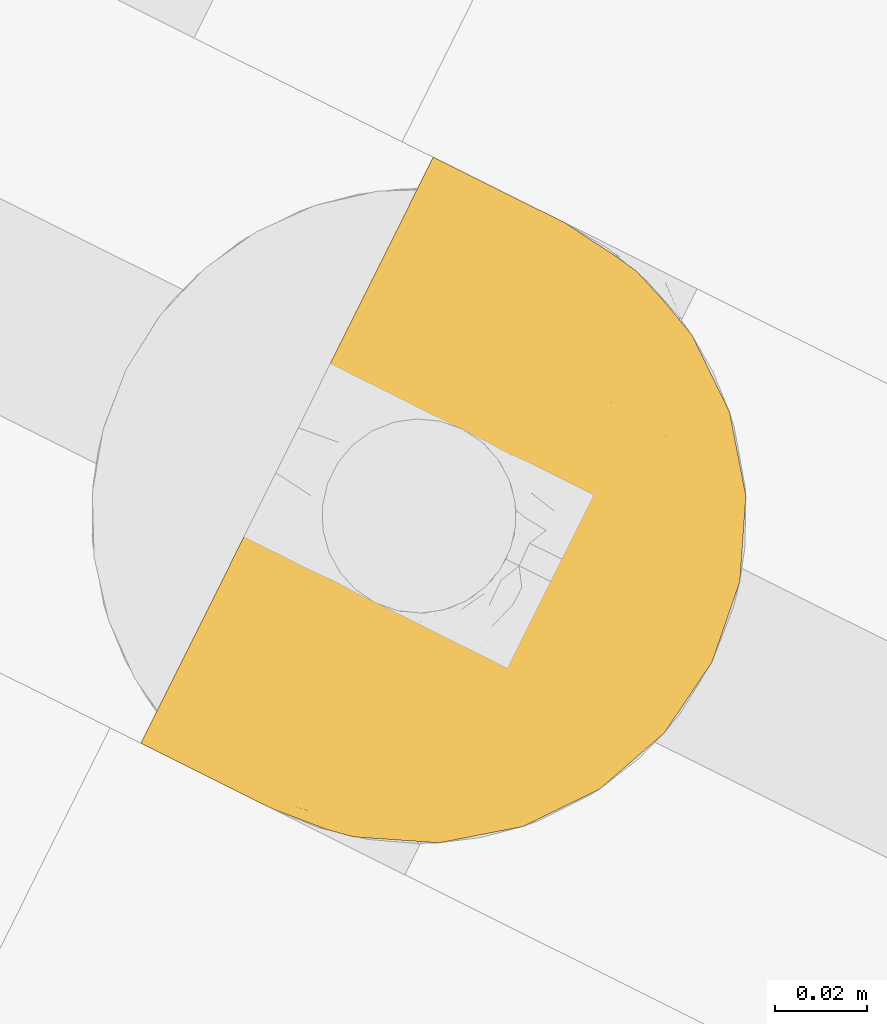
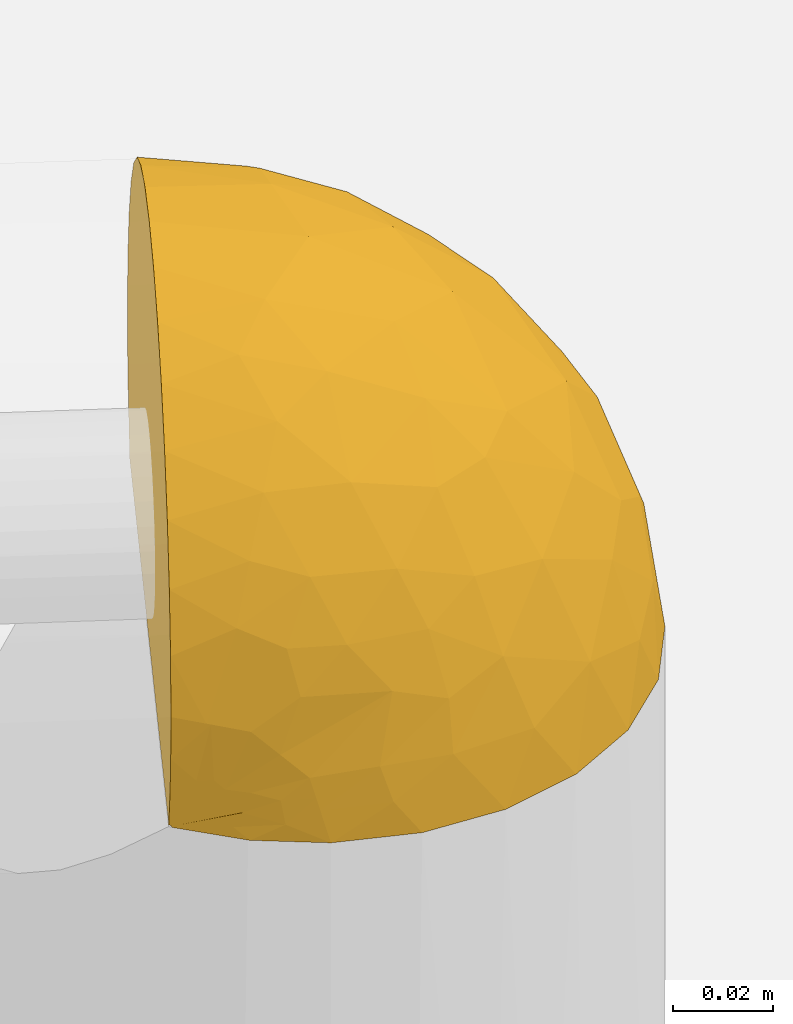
# One storey, part 54 of 91: 1 covering.
"""IFC2X3 building model written with IfcOpenShell, lengths in metres."""

from ifc_helpers import new_model, entity, si_unit, converted_unit, derived_unit, direction, frame, origin, place, context, subcontext, project, spatial, faceted_brep, element, save


model = new_model("IFC2X3")

# Units and contexts
model_context = context("Model", 3, precision=1e-05, world=origin(), true_north=direction((0.894925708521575, 0.446215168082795)))
context_of_model = context(None, 3, precision=1e-05, world=origin(), true_north=direction((0.894925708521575, 0.446215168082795)))
body_context = subcontext(model_context, "Body", "Model", "MODEL_VIEW")
ifc_project = project(units=[si_unit("LENGTHUNIT", "METRE"), si_unit("AREAUNIT", "SQUARE_METRE"), si_unit("VOLUMEUNIT", "CUBIC_METRE"), converted_unit("PLANEANGLEUNIT", "DEGREE", entity("IfcRatioMeasure", 0.0174532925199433), si_unit("PLANEANGLEUNIT", "RADIAN"), dimensions=[0, 0, 0, 0, 0, 0, 0]), si_unit("MASSUNIT", "GRAM", prefix="KILO"), si_unit("TIMEUNIT", "SECOND"), si_unit("FREQUENCYUNIT", "HERTZ"), si_unit("THERMODYNAMICTEMPERATUREUNIT", "DEGREE_CELSIUS"), derived_unit("THERMALTRANSMITTANCEUNIT", [(si_unit("MASSUNIT", "GRAM", prefix="KILO"), 1), (si_unit("THERMODYNAMICTEMPERATUREUNIT", "KELVIN"), -1), (si_unit("TIMEUNIT", "SECOND"), -3)]), derived_unit("VOLUMETRICFLOWRATEUNIT", [(si_unit("LENGTHUNIT", "METRE"), 3), (si_unit("TIMEUNIT", "SECOND"), -1)]), si_unit("ELECTRICCURRENTUNIT", "AMPERE"), si_unit("ELECTRICVOLTAGEUNIT", "VOLT"), si_unit("POWERUNIT", "WATT"), si_unit("FORCEUNIT", "NEWTON", prefix="KILO"), si_unit("ILLUMINANCEUNIT", "LUX"), si_unit("LUMINOUSFLUXUNIT", "LUMEN"), si_unit("LUMINOUSINTENSITYUNIT", "CANDELA"), si_unit("PRESSUREUNIT", "PASCAL")], contexts=[model_context, context_of_model])

# Site, building, storey
site_placement = place(None, frame((218.228324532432, 584.720189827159, 0.0), z_axis=(0.0, 0.0, 1.0), x_axis=(0.446215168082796, 0.894925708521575, 0.0)))
site = spatial("IfcSite", under=ifc_project, at=site_placement, Name="Default", CompositionType="ELEMENT")
building_placement = place(site_placement, origin())
building = spatial("IfcBuilding", under=site, at=building_placement, CompositionType="ELEMENT")
storey_placement = place(building_placement, origin())
storey = spatial("IfcBuildingStorey", under=building, at=storey_placement, Name="0 - Piano Terra", CompositionType="ELEMENT", Elevation=0.0)

# Covering
covering_placement = place(storey_placement, frame((-4.59456725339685, -4.63157192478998, 3.4664144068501)))
element("IfcCovering", 1, at=covering_placement, inside=storey, Name="Isolamento tubazione:Default", ObjectType="Isolamento tubazione:Default", PredefinedType="INSULATION", context=body_context, shape_type="Brep", body=[
    faceted_brep([(0.00701017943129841, 0.104695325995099, 0.0608106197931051), (0.013582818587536, 0.104695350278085, 0.0731037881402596), (0.0224271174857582, 0.104695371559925, 0.0838776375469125), (0.0332029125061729, 0.10469538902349, 0.0927184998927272), (0.0454960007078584, 0.104695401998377, 0.0992869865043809), (0.0588340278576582, 0.104695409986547, 0.103330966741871), (0.072695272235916, 0.104695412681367, 0.104695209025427), (0.0865703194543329, 0.104695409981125, 0.103328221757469), (0.0999106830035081, 0.104695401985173, 0.0992803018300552), (0.112203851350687, 0.104695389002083, 0.0927076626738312), (0.12297770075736, 0.10469537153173, 0.0838633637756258), (0.131818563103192, 0.104695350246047, 0.0730875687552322), (0.138387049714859, 0.104695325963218, 0.0607944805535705), (0.142431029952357, 0.104695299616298, 0.0474564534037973), (0.143795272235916, 0.104695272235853, 0.0335952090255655), (0.14297149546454, 0.104695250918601, 0.0228034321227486), (0.140522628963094, 0.10469523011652, 0.0122724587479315), (0.136503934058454, 0.10469521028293, 0.00223178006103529), (0.13302176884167, 0.104695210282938, 0.00223178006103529), (0.127516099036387, 0.104695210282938, 0.00223178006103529), (0.123022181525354, 0.104695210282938, 0.00223178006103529), (0.11852826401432, 0.104695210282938, 0.00223178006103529), (0.114034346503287, 0.104695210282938, 0.00223178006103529), (0.109540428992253, 0.104695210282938, 0.00223178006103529), (0.10504651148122, 0.104695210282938, 0.00223178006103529), (0.100552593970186, 0.104695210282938, 0.00223178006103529), (0.0960586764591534, 0.104695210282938, 0.00223178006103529), (0.0915647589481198, 0.104695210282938, 0.00223178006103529), (0.0870708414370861, 0.104695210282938, 0.00223178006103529), (0.0825769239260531, 0.104695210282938, 0.00223178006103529), (0.07808300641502, 0.104695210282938, 0.00223178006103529), (0.0735890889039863, 0.104695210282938, 0.00223178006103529), (0.0690951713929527, 0.104695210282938, 0.00223178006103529), (0.0646012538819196, 0.104695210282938, 0.00223178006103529), (0.0611190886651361, 0.104695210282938, 0.00223178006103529), (0.0576369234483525, 0.104695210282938, 0.00223178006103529), (0.0541547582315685, 0.104695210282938, 0.00223178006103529), (0.0506725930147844, 0.104695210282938, 0.00223178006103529), (0.0471904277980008, 0.104695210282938, 0.00223178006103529), (0.0437082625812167, 0.104695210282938, 0.00223178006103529), (0.0402260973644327, 0.104695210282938, 0.00223178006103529), (0.0367439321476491, 0.104695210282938, 0.00223178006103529), (0.033261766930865, 0.104695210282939, 0.00223178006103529), (0.029779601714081, 0.104695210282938, 0.00223178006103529), (0.0262974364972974, 0.104695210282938, 0.00223178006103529), (0.0228152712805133, 0.104695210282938, 0.00223178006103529), (0.0193331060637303, 0.104695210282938, 0.00223178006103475), (0.0158509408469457, 0.104695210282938, 0.00223178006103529), (0.0123687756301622, 0.104695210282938, 0.00223178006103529), (0.00888661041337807, 0.10469521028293, 0.00223178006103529), (0.00486547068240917, 0.104695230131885, 0.0122802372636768), (0.00241781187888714, 0.104695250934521, 0.0228114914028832), (0.0015952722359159, 0.104695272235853, 0.033595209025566), (0.00296225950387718, 0.104695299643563, 0.0474702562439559), (0.136503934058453, 0.104058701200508, 0.00159527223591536), (0.141948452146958, 0.0887951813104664, 0.00159527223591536), (0.143795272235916, 0.072695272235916, 0.00159527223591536), (0.141372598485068, 0.0542932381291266, 0.00159527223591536), (0.134269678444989, 0.0371452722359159, 0.00159527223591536), (0.122970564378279, 0.0224199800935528, 0.00159527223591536), (0.108245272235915, 0.0111208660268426, 0.00159527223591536), (0.0910973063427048, 0.00401794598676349, 0.00159527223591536), (0.072695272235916, 0.00159527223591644, 0.00159527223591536), (0.0542932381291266, 0.00401794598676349, 0.00159527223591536), (0.0371452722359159, 0.0111208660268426, 0.00159527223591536), (0.0224199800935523, 0.0224199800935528, 0.00159527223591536), (0.0111208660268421, 0.0371452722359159, 0.00159527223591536), (0.00401794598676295, 0.0542932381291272, 0.00159527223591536), (0.0015952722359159, 0.072695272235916, 0.00159527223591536), (0.00344209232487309, 0.0887951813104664, 0.00159527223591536), (0.00888661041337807, 0.104058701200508, 0.00159527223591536), (0.0123687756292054, 0.104058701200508, 0.00159527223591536), (0.0168626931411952, 0.104058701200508, 0.0015952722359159), (0.0208507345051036, 0.104058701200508, 0.00159527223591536), (0.0248387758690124, 0.104058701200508, 0.00159527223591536), (0.0288268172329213, 0.104058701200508, 0.00159527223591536), (0.0328148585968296, 0.104058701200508, 0.00159527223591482), (0.0368028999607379, 0.104058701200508, 0.00159527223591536), (0.0407909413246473, 0.104058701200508, 0.00159527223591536), (0.0447789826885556, 0.104058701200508, 0.00159527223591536), (0.0487670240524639, 0.104058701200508, 0.00159527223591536), (0.0527550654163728, 0.104058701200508, 0.00159527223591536), (0.0567431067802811, 0.104058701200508, 0.00159527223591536), (0.06073114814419, 0.104058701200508, 0.00159527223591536), (0.0647191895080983, 0.104058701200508, 0.00159527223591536), (0.0687072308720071, 0.104058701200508, 0.00159527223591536), (0.072695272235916, 0.104058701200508, 0.00159527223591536), (0.0771891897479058, 0.104058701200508, 0.00159527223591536), (0.0816831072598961, 0.104058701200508, 0.00159527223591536), (0.0861770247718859, 0.104058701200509, 0.00159527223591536), (0.0906709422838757, 0.104058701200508, 0.00159527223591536), (0.0951648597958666, 0.104058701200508, 0.00159527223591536), (0.0996587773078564, 0.104058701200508, 0.00159527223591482), (0.104152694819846, 0.104058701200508, 0.00159527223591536), (0.108646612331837, 0.104058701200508, 0.00159527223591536), (0.112128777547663, 0.104058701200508, 0.00159527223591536), (0.115610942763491, 0.104058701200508, 0.00159527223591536), (0.119093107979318, 0.104058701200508, 0.0015952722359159), (0.122575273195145, 0.104058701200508, 0.00159527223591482), (0.126057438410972, 0.104058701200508, 0.00159527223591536), (0.129539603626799, 0.104058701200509, 0.00159527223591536), (0.133021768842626, 0.104058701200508, 0.00159527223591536), (0.027162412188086, 0.104255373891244, 0.00205536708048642), (0.0228447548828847, 0.104218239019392, 0.00201674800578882), (0.105639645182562, 0.104232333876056, 0.00203218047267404), (0.10190573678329, 0.104223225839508, 0.00202232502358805), (0.0867435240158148, 0.104244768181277, 0.00204498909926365), (0.0668482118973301, 0.104248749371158, 0.00204894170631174), (0.0708348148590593, 0.104242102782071, 0.00204230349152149), (0.131280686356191, 0.104245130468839, 0.00204535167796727), (0.127420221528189, 0.104214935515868, 0.00201297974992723), (0.00888661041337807, 0.104245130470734, 0.00204535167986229), (0.0141098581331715, 0.104245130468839, 0.00204535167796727), (0.136503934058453, 0.104245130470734, 0.00204535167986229), (0.0427849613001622, 0.104223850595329, 0.00202301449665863), (0.124067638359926, 0.104194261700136, 0.00198794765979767), (0.120775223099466, 0.104257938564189, 0.00205780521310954), (0.110387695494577, 0.104229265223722, 0.00202890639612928), (0.0524136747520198, 0.104265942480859, 0.00206524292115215), (0.0628628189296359, 0.104242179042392, 0.00204238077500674), (0.0831700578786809, 0.104232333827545, 0.00203218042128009), (0.0794361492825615, 0.10422322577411, 0.00202232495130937), (0.0747761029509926, 0.104225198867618, 0.00202449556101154), (0.0979269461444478, 0.104248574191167, 0.00204876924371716), (0.0939908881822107, 0.104265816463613, 0.00206512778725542), (0.113677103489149, 0.104187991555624, 0.00197981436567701), (0.0485334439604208, 0.104277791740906, 0.00207579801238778), (0.0308953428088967, 0.104213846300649, 0.00201172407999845), (0.0181058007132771, 0.104270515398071, 0.00206937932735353), (0.136503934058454, 0.104591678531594, 0.00218889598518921), (0.136503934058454, 0.10448814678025, 0.00214601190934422), (0.136503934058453, 0.104366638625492, 0.00209568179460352), (0.00888661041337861, 0.104366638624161, 0.00209568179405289), (0.00888661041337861, 0.104488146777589, 0.00214601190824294), (0.00888661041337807, 0.104591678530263, 0.00218889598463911), (0.00888661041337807, 0.104101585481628, 0.00169880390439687), (0.00888661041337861, 0.104144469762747, 0.00180233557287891), (0.00888661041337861, 0.104194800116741, 0.00192384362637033), (0.136503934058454, 0.104194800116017, 0.00192384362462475), (0.136503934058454, 0.104144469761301, 0.00180233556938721), (0.136503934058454, 0.104101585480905, 0.00169880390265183), (0.0346304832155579, 0.104253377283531, 0.00205345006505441), (0.0386956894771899, 0.104241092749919, 0.00204127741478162), (0.0587371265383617, 0.104226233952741, 0.00202562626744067), (0.116928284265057, 0.104250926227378, 0.00205107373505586), (0.0903177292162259, 0.104255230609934, 0.00205523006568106), (0.140124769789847, 0.0955895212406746, 0.00412512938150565), (0.143795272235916, 0.0756538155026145, 0.0126366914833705), (0.141948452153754, 0.0903263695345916, 0.0084031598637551), (0.143795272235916, 0.0769824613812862, 0.0175952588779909), (0.139668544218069, 0.0994468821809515, 0.00780383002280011), (0.140275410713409, 0.0969885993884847, 0.00781943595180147), (0.142769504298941, 0.0852156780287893, 0.0059764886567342), (0.142149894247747, 0.0937883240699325, 0.0143635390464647), (0.141947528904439, 0.099537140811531, 0.0166311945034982), (0.143354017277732, 0.0971703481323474, 0.0244808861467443), (0.143795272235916, 0.0886952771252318, 0.0293080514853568), (0.143120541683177, 0.0941883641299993, 0.0211832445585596), (0.143795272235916, 0.0975935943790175, 0.0316923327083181), (0.143795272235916, 0.096695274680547, 0.0314516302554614), (0.143795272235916, 0.0828388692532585, 0.0234516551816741), (0.141108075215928, 0.0983827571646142, 0.0125434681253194), (0.142774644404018, 0.0887697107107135, 0.0136875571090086), (0.139421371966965, 0.0980466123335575, 0.00495037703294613), (0.143795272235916, 0.0748388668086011, 0.00959526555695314), (0.143795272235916, 0.0741745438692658, 0.00711598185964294), (0.0893151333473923, 0.0549375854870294, 0.0896378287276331), (0.072695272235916, 0.0728357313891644, 0.0996491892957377), (0.072695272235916, 0.0440946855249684, 0.0850049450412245), (0.142219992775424, 0.059684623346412, 0.0147146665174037), (0.129102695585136, 0.0319775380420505, 0.0210799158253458), (0.129776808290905, 0.0415723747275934, 0.0409572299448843), (0.11597820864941, 0.0252478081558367, 0.0403763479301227), (0.138383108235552, 0.0499934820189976, 0.0242534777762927), (0.138383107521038, 0.0463859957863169, 0.0118767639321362), (0.106218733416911, 0.0631220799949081, 0.0866828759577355), (0.0958613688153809, 0.0345361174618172, 0.0717545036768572), (0.072695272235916, 0.00664135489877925, 0.0334549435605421), (0.0860602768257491, 0.00500701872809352, 0.0223828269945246), (0.087498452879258, 0.0142207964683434, 0.0476943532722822), (0.0933399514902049, 0.0790685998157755, 0.0982939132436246), (0.13540476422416, 0.0934074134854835, 0.0661225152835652), (0.140736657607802, 0.0929552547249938, 0.052898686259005), (0.141485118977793, 0.0815657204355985, 0.0458977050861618), (0.0999040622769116, 0.0109111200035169, 0.0289347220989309), (0.115978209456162, 0.0181968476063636, 0.0198680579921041), (0.127662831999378, 0.0548279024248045, 0.0603936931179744), (0.136403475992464, 0.068059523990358, 0.0535431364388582), (0.122566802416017, 0.0661640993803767, 0.074743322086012), (0.141414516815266, 0.0723760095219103, 0.0400661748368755), (0.135404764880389, 0.0808694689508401, 0.0626158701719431), (0.117808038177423, 0.0824200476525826, 0.0856486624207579), (0.128216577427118, 0.084113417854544, 0.075185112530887), (0.072695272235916, 0.0212856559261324, 0.06219596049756), (0.102581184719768, 0.0203118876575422, 0.0484394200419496), (0.106218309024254, 0.0805233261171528, 0.0931593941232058), (0.113404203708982, 0.0464186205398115, 0.0705628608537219), (0.11202914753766, 0.0324415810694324, 0.0572918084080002), (0.142049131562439, 0.0622245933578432, 0.023223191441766), (0.141372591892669, 0.0647086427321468, 0.0322780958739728), (0.134923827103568, 0.0555386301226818, 0.0462218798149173), (0.0015952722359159, 0.0975935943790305, 0.0316923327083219), (0.004658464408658, 0.0913711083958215, 0.0525258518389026), (0.0599076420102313, 0.00476036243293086, 0.0217173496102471), (0.052065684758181, 0.0827616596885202, 0.0992025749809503), (0.0454864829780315, 0.013804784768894, 0.0373979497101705), (0.0595021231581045, 0.0111562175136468, 0.0419309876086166), (0.050469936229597, 0.021099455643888, 0.0556262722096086), (0.0454864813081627, 0.00833085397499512, 0.0176206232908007), (0.0282563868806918, 0.0817735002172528, 0.0860408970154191), (0.0391881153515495, 0.0711303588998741, 0.0901575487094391), (0.0391881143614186, 0.0888744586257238, 0.0949739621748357), (0.0494312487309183, 0.0345600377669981, 0.0717305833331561), (0.00285641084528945, 0.0628139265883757, 0.0189430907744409), (0.0015952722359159, 0.0769824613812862, 0.0175952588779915), (0.0015952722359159, 0.0756538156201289, 0.0126366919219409), (0.0015952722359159, 0.0748388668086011, 0.00959526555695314), (0.00878913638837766, 0.0486500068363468, 0.0307270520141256), (0.00700743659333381, 0.0479164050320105, 0.0183833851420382), (0.0162878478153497, 0.0373802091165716, 0.035302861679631), (0.0294123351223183, 0.0191716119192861, 0.023991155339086), (0.0162878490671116, 0.0311242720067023, 0.0175586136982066), (0.0307050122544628, 0.0286599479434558, 0.0485711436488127), (0.00621922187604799, 0.0692037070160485, 0.046480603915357), (0.00429322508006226, 0.0813677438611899, 0.0473971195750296), (0.00255877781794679, 0.0787073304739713, 0.0366850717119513), (0.0275978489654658, 0.049865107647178, 0.0691008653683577), (0.02226167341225, 0.0674668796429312, 0.0747878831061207), (0.0147818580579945, 0.0586950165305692, 0.058595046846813), (0.0177403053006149, 0.0851785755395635, 0.0761973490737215), (0.00999426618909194, 0.0884456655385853, 0.0650713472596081), (0.00999449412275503, 0.0763683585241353, 0.060679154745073), (0.0554032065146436, 0.0566571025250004, 0.0904000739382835), (0.0413829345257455, 0.0513608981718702, 0.0812165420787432), (0.0015952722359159, 0.096695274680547, 0.0314516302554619), (0.0015952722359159, 0.0886952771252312, 0.0293080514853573), (0.0373836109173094, 0.0397018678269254, 0.069105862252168), (0.00287128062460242, 0.0601005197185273, 0.0101596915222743), (0.0202384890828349, 0.0428323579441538, 0.0523115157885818), (0.0116104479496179, 0.0525790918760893, 0.0458714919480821), (0.0056906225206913, 0.0601608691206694, 0.0351858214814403), (0.0015952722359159, 0.0828388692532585, 0.0234516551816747), (0.0015952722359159, 0.0741745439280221, 0.00711598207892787), (0.0021206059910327, 0.0817501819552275, 0.00604681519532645), (0.00583102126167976, 0.102600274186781, 0.0091356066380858), (0.00537214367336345, 0.100433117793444, 0.00967502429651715), (0.00344116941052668, 0.0995320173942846, 0.0166378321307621), (0.00200983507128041, 0.0827053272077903, 0.0120139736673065), (0.00520910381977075, 0.0972106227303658, 0.00764012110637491), (0.00572680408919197, 0.0994658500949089, 0.00780220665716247), (0.00344209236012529, 0.090326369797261, 0.00840315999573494), (0.00307857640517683, 0.0960116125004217, 0.0168494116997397), (0.00323987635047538, 0.0937833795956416, 0.0143639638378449), (0.00259902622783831, 0.0886882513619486, 0.0137438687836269), (0.00419789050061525, 0.0920715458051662, 0.00443450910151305)], [[[0, 1, 2, 3, 4, 5, 6, 7, 8, 9, 10, 11, 12, 13, 14, 15, 16, 17, 18, 19, 20, 21, 22, 23, 24, 25, 26, 27, 28, 29, 30, 31, 32, 33, 34, 35, 36, 37, 38, 39, 40, 41, 42, 43, 44, 45, 46, 47, 48, 49, 50, 51, 52, 53]], [[54, 55, 56, 57, 58, 59, 60, 61, 62, 63, 64, 65, 66, 67, 68, 69, 70, 71, 72, 73, 74, 75, 76, 77, 78, 79, 80, 81, 82, 83, 84, 85, 86, 87, 88, 89, 90, 91, 92, 93, 94, 95, 96, 97, 98, 99, 100, 101]], [[102, 74, 103]], [[24, 104, 105]], [[90, 89, 106]], [[107, 32, 108]], [[109, 100, 110]], [[33, 32, 107]], [[111, 48, 47, 112]], [[18, 113, 109, 19]], [[100, 109, 113, 101]], [[71, 111, 112, 72]], [[39, 38, 114, 40]], [[20, 115, 116]], [[117, 94, 104]], [[80, 118, 82, 81]], [[119, 33, 107]], [[29, 120, 121]], [[108, 122, 86]], [[110, 19, 109]], [[108, 32, 31]], [[107, 108, 85]], [[121, 30, 29]], [[25, 123, 26]], [[93, 92, 105]], [[124, 91, 90]], [[22, 125, 117]], [[126, 37, 118]], [[102, 43, 127]], [[112, 47, 128]], [[73, 128, 103]], [[18, 17, 129, 130, 131, 113]], [[48, 111, 132, 133, 134, 49]], [[71, 70, 135, 136, 137, 111]], [[101, 113, 138, 139, 140, 54]], [[72, 112, 128]], [[103, 74, 73]], [[25, 24, 105]], [[128, 46, 103]], [[73, 72, 128]], [[20, 116, 21]], [[110, 99, 115]], [[115, 20, 19]], [[76, 127, 141]], [[142, 114, 78]], [[95, 125, 96]], [[127, 76, 75]], [[102, 103, 44]], [[103, 46, 45, 44]], [[119, 143, 34]], [[85, 84, 107]], [[143, 118, 36]], [[84, 119, 107]], [[86, 85, 108]], [[87, 121, 88]], [[31, 122, 108]], [[122, 87, 86]], [[31, 30, 122]], [[121, 87, 122]], [[35, 34, 143, 36]], [[83, 143, 119]], [[82, 143, 83]], [[119, 84, 83]], [[143, 82, 118]], [[36, 118, 37]], [[126, 114, 38]], [[42, 41, 141]], [[80, 126, 118]], [[79, 114, 126]], [[78, 114, 79]], [[126, 80, 79]], [[142, 40, 114]], [[41, 142, 141]], [[142, 77, 141]], [[43, 42, 127]], [[75, 74, 102]], [[76, 141, 77]], [[142, 78, 77]], [[127, 42, 141]], [[102, 127, 75]], [[116, 97, 144]], [[144, 21, 116]], [[98, 116, 115]], [[95, 94, 117]], [[23, 22, 117]], [[22, 21, 144]], [[96, 125, 144]], [[125, 95, 117]], [[24, 23, 104]], [[38, 37, 126]], [[110, 100, 99]], [[104, 93, 105]], [[124, 123, 91]], [[92, 123, 105]], [[105, 123, 25]], [[92, 91, 123]], [[124, 26, 123]], [[124, 27, 26]], [[145, 27, 124]], [[93, 104, 94]], [[117, 104, 23]], [[120, 88, 121]], [[30, 121, 122]], [[106, 145, 90]], [[89, 88, 120]], [[145, 124, 90]], [[120, 29, 28]], [[145, 28, 27]], [[106, 28, 145]], [[34, 33, 119]], [[128, 47, 46]], [[144, 125, 22]], [[96, 144, 97]], [[116, 98, 97]], [[142, 41, 40]], [[98, 115, 99]], [[19, 110, 115]], [[44, 43, 102]], [[106, 120, 28]], [[120, 106, 89]], [[54, 140, 139, 146]], [[147, 148, 149]], [[113, 150, 151]], [[55, 152, 56]], [[151, 138, 113]], [[129, 17, 16]], [[151, 150, 153]], [[130, 129, 154]], [[154, 129, 16]], [[155, 156, 157]], [[15, 14, 158, 159]], [[159, 155, 15]], [[160, 153, 157]], [[153, 150, 161]], [[151, 162, 148]], [[16, 15, 154]], [[146, 152, 55]], [[153, 161, 157]], [[163, 146, 139]], [[152, 146, 148]], [[54, 146, 55]], [[148, 147, 152]], [[152, 147, 164, 165, 56]], [[163, 139, 138]], [[162, 151, 153]], [[163, 151, 148]], [[153, 160, 162]], [[149, 148, 162]], [[151, 163, 138]], [[149, 162, 160]], [[146, 163, 148]], [[161, 130, 154]], [[161, 131, 130]], [[150, 113, 131]], [[131, 161, 150]], [[157, 161, 154]], [[155, 157, 154]], [[157, 156, 160]], [[15, 155, 154]], [[156, 155, 159]], [[166, 167, 168]], [[169, 56, 165, 164]], [[170, 171, 172]], [[169, 173, 174]], [[175, 166, 176]], [[177, 178, 179]], [[7, 167, 180]], [[8, 7, 180]], [[181, 182, 12]], [[183, 156, 159, 158]], [[184, 60, 185]], [[61, 178, 62]], [[186, 187, 188]], [[60, 184, 61]], [[58, 174, 170]], [[158, 14, 13]], [[60, 59, 185]], [[183, 189, 156]], [[190, 187, 183]], [[178, 61, 184]], [[191, 10, 9]], [[192, 10, 191]], [[183, 158, 182]], [[182, 13, 12]], [[58, 170, 59]], [[176, 168, 193]], [[194, 179, 184]], [[158, 13, 182]], [[190, 192, 188]], [[195, 180, 175]], [[195, 9, 8]], [[180, 166, 175]], [[58, 57, 174]], [[186, 188, 196]], [[7, 6, 167]], [[191, 195, 175]], [[192, 190, 181]], [[182, 190, 183]], [[186, 197, 171]], [[11, 181, 12]], [[171, 170, 173]], [[179, 193, 177]], [[198, 199, 173]], [[185, 170, 172]], [[187, 190, 188]], [[160, 156, 189]], [[169, 198, 173]], [[160, 199, 149]], [[187, 186, 200]], [[11, 10, 192]], [[182, 181, 190]], [[192, 181, 11]], [[192, 191, 188]], [[191, 175, 188]], [[196, 188, 175]], [[175, 176, 196]], [[176, 194, 197]], [[200, 173, 199]], [[197, 186, 196]], [[167, 166, 180]], [[176, 166, 168]], [[170, 185, 59]], [[184, 185, 172]], [[200, 186, 171]], [[189, 183, 187]], [[173, 200, 171]], [[189, 200, 199]], [[200, 189, 187]], [[160, 189, 199]], [[57, 56, 169]], [[170, 174, 173]], [[57, 169, 174]], [[198, 164, 147, 149]], [[164, 198, 169]], [[149, 199, 198]], [[194, 184, 172]], [[176, 193, 179]], [[197, 194, 172]], [[176, 179, 194]], [[171, 197, 172]], [[176, 197, 196]], [[9, 195, 191]], [[8, 180, 195]], [[179, 178, 184]], [[62, 178, 177]], [[53, 201, 202]], [[62, 177, 203]], [[4, 204, 5]], [[205, 203, 206]], [[206, 207, 205]], [[208, 203, 205]], [[209, 210, 211]], [[212, 193, 168]], [[213, 214, 215, 216]], [[217, 218, 219]], [[64, 220, 65]], [[221, 218, 66]], [[222, 219, 220]], [[221, 66, 65]], [[220, 64, 208]], [[223, 224, 225]], [[226, 227, 228]], [[229, 230, 231]], [[204, 232, 167]], [[233, 232, 210]], [[2, 1, 229]], [[2, 229, 209]], [[233, 212, 232]], [[204, 4, 211]], [[6, 5, 167]], [[63, 208, 64]], [[167, 5, 204]], [[53, 52, 201]], [[230, 202, 231]], [[3, 2, 209]], [[230, 1, 0]], [[227, 210, 209]], [[224, 223, 231]], [[0, 53, 202]], [[66, 218, 67]], [[226, 233, 227]], [[204, 210, 232]], [[224, 201, 234, 235]], [[168, 167, 232]], [[3, 211, 4]], [[233, 236, 212]], [[218, 213, 237]], [[212, 168, 232]], [[219, 222, 238]], [[239, 223, 240]], [[222, 220, 205]], [[221, 220, 219]], [[222, 205, 207]], [[238, 226, 228]], [[213, 240, 214]], [[67, 237, 68]], [[204, 211, 210]], [[209, 211, 3]], [[209, 229, 227]], [[229, 231, 227]], [[228, 227, 231]], [[223, 228, 231]], [[239, 219, 238]], [[224, 231, 202]], [[225, 240, 223]], [[220, 221, 65]], [[214, 240, 241]], [[218, 221, 219]], [[237, 213, 216]], [[213, 218, 217]], [[237, 216, 242, 68]], [[218, 237, 67]], [[201, 224, 202]], [[225, 224, 235]], [[235, 241, 225]], [[240, 225, 241]], [[227, 233, 210]], [[236, 233, 226]], [[238, 236, 226]], [[207, 236, 222]], [[203, 208, 63]], [[220, 208, 205]], [[62, 203, 63]], [[203, 177, 206]], [[177, 193, 206]], [[207, 193, 212]], [[193, 207, 206]], [[207, 212, 236]], [[238, 222, 236]], [[239, 238, 228]], [[223, 239, 228]], [[239, 240, 217]], [[1, 230, 229]], [[0, 202, 230]], [[239, 217, 219]], [[213, 217, 240]], [[243, 68, 242, 216, 215]], [[244, 245, 246]], [[214, 247, 215]], [[111, 248, 249]], [[137, 136, 250]], [[246, 51, 50]], [[246, 245, 251]], [[50, 244, 246]], [[246, 234, 51]], [[241, 252, 253]], [[132, 245, 133]], [[250, 247, 253]], [[235, 234, 251]], [[50, 134, 244]], [[69, 254, 70]], [[249, 132, 111]], [[50, 49, 134]], [[133, 244, 134]], [[245, 244, 133]], [[245, 249, 251]], [[254, 69, 243]], [[247, 243, 215]], [[111, 137, 248]], [[241, 253, 214]], [[250, 254, 243]], [[250, 243, 247]], [[68, 243, 69]], [[252, 241, 235]], [[253, 247, 214]], [[248, 250, 253]], [[252, 249, 248]], [[250, 248, 137]], [[252, 248, 253]], [[250, 136, 254]], [[254, 136, 135, 70]], [[252, 235, 251]], [[51, 234, 201, 52]], [[251, 249, 252]], [[132, 249, 245]], [[251, 234, 246]]]),
])

save(model, "model.ifc")
